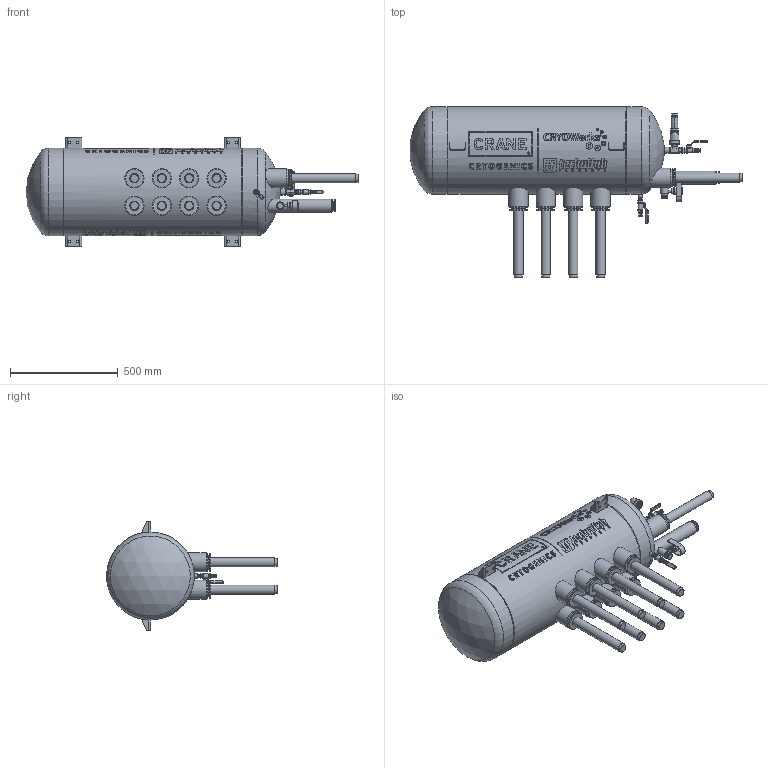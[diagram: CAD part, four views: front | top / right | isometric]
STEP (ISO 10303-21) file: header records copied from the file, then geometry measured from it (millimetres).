
FILE_DESCRIPTION (( 'STEP AP203' ), '1' );
FILE_NAME ('CA01770.step', '2025-12-17T20:03:23', ( '' ), ( '' ), 'SwSTEP 2.0', 'SolidWorks 2023', '' );
FILE_SCHEMA (( 'CONFIG_CONTROL_DESIGN' ));
Length unit declared in the file: inch
Products named in the file (1): CA01770
Bounding box: 1539.51 x 792.16 x 508 mm (x, y, z)
Volume: 152408156.2 mm3; surface area: 2512968.3 mm2
Topology: 1 solids, 13 shells, 2487 faces, 6239 edges, 4021 vertices
Faces by surface type: plane 1153, cylinder 644, cone 445, bspline 202, torus 29, sphere 14
Full cylindrical faces by diameter (mm): 4.182 x2, 4.581 x2, 4.75 x2, 4.775 x1, 4.977 x2, 5.527 x14, 5.71 x2, 6.221 x14, 6.272 x4, 6.35 x6, 6.446 x2, 7.112 x1, 7.722 x2, 7.976 x2, 8.307 x2, 8.598 x2, 9.188 x2, 9.246 x3, 9.322 x2, 9.525 x8, 9.544 x2, 9.842 x2, 10.171 x2, 10.262 x1, 10.661 x2, 11.112 x6, 11.225 x2, 12.494 x2, 12.7 x1, 12.804 x2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
Entity records: 173041 total; most frequent: CARTESIAN_POINT 120225, ORIENTED_EDGE 11282, DIRECTION 9607, EDGE_CURVE 5641, VERTEX_POINT 3841, AXIS2_PLACEMENT_3D 3676, EDGE_LOOP 3216, FACE_OUTER_BOUND 2703
